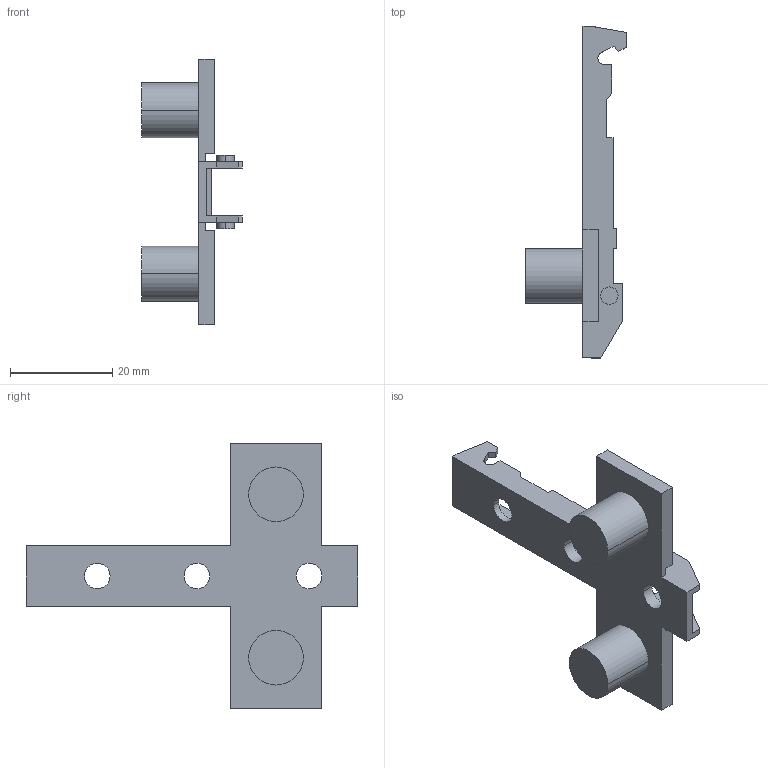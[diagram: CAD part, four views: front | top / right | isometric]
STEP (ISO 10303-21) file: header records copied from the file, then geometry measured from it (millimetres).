
FILE_DESCRIPTION (( 'STEP AP214' ), '1' );
FILE_NAME ('Eco Kreuzmontageplatte LR28_32_Dübel 10mm_H-02.step', '2010-11-18T10:06:51', ( 'grass' ), ( '' ), 'SwSTEP 2.0', 'SolidWorks 2010', '' );
FILE_SCHEMA (( 'AUTOMOTIVE_DESIGN' ));
Length unit declared in the file: millimetre
Products named in the file (1): Eco Kreuzmontageplatte LR28_32_Dübel 10mm_H-02
Bounding box: 19.7 x 65 x 52 mm (x, y, z)
Volume: 5807.3 mm3; surface area: 5591.9 mm2
Topology: 1 solids, 1 shells, 97 faces, 259 edges, 170 vertices
Faces by surface type: plane 73, cylinder 20, cone 4
Entity records: 3039 total; most frequent: CARTESIAN_POINT 527, ORIENTED_EDGE 518, DIRECTION 499, EDGE_CURVE 259, VECTOR 215, LINE 215, VERTEX_POINT 170, AXIS2_PLACEMENT_3D 142
